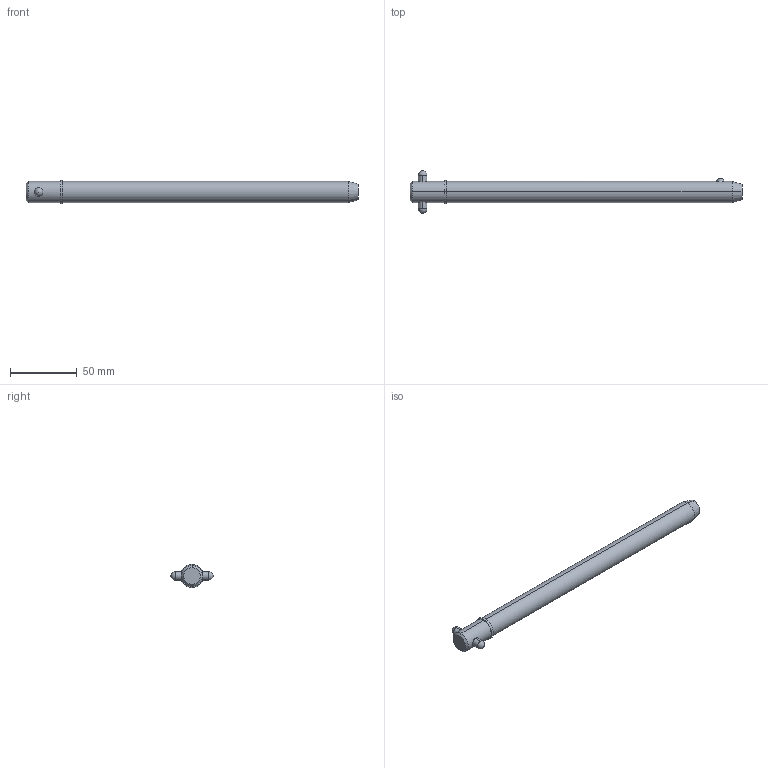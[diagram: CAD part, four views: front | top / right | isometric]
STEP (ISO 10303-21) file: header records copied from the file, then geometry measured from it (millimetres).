
FILE_DESCRIPTION (( 'STEP AP203' ), '1' );
FILE_NAME ('33018.W6280.step', '2024-11-19T17:19:42', ( '' ), ( '' ), 'SwSTEP 2.0', 'SolidWorks 2019', '' );
FILE_SCHEMA (( 'CONFIG_CONTROL_DESIGN' ));
Length unit declared in the file: millimetre
Products named in the file (3): Part2_33018.W6280; Part1_33018.W6280; 33018.W6280
Assembly tree (2 placements, depth 2):
  33018.W6280
    Part1_33018.W6280
    Part2_33018.W6280
Bounding box: 249.56 x 31.75 x 17.47 mm (x, y, z)
Volume: 49579.9 mm3; surface area: 13656.8 mm2
Topology: 2 solids, 2 shells, 22 faces, 47 edges, 30 vertices
Faces by surface type: cylinder 10, sphere 4, cone 4, plane 4
Entity records: 1047 total; most frequent: CARTESIAN_POINT 290, DIRECTION 110, ORIENTED_EDGE 82, AXIS2_PLACEMENT_3D 48, EDGE_CURVE 41, EDGE_LOOP 27, VERTEX_POINT 26, PERSON_AND_ORGANIZATION 26
